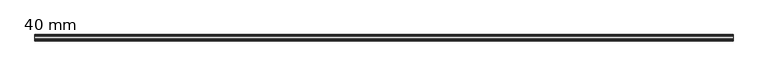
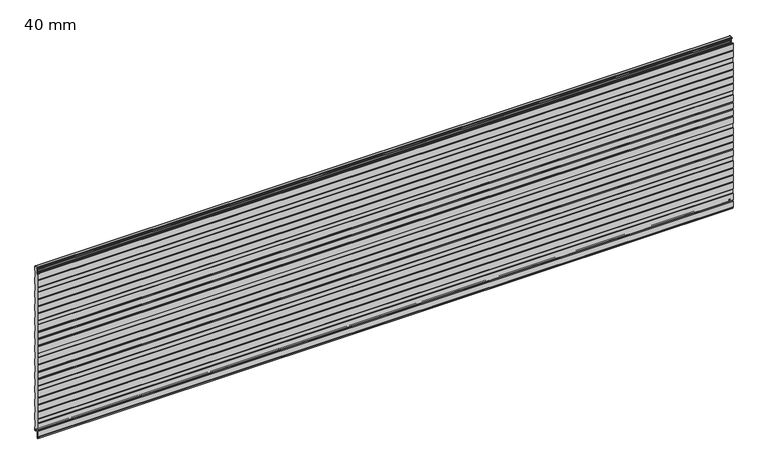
"""IFC4 building model written with IfcOpenShell, lengths in millimetres: plate geometry, HIANSA PANEL - H20.F02.002-PANELES DE FACHADA HORIZONTAL - PANEL PERFILADO - Panel de Muro Cortina : 40 mm."""

from ifc_helpers import new_model, si_unit, frame, origin, place, context, project, spatial, polyline, circle_curve, source, transform, mapped, element, save
from ifc_brep_helpers import plane_surface, cylinder_surface, revolved_surface, advanced_brep


def plate_40_mm_d91b21d4(model_context):
    return source(origin(), model_context, "Body", "AdvancedBrep", [
        advanced_brep(
        [(-2200.0, -38.8752798, 1088.9050598), (-2200.0, -37.5170803, 1089.9655099), (-2200.0, -34.8776596, 1089.9655099), (-2200.0, -34.8776596, 1080.8), (-2200.0, -33.3776596, 1079.3), (-2200.0, -29.1276596, 1079.3), (-2200.0, -27.6276596, 1080.8), (-2200.0, -27.6276596, 1082.4013031), (-2200.0, -26.9880243, 1083.6300312), (-2200.0, -20.9305067, 1087.8715506), (-2200.0, -20.0776596, 1089.5098547), (-2200.0, -20.0776596, 1098.6062275), (-2200.0, -19.3889845, 1099.7990478), (-2200.0, -19.3889845, 1100.7990478), (-2200.0, -20.0776596, 1101.9918681), (-2200.0, -20.0776596, 1111.0896684), (-2200.0, -20.9305067, 1112.7279725), (-2200.0, -26.9880243, 1116.969492), (-2200.0, -27.6276596, 1118.19822), (-2200.0, -27.6276596, 1121.5805697), (-2200.0, -26.1276596, 1123.0805697), (-2200.0, -7.7494039, 1123.0810465), (-2200.0, -6.7486887, 1122.0803313), (-2200.0, -6.7486887, 1115.9337883), (-2200.0, -4.7472517, 1113.9323514), (-2200.0, -1.4941037, 1113.9323514), (-2200.0, -0.5, 1112.9382477), (-2200.0, -0.5, 1088.0627766), (-2200.0, -1.5005169, 1085.0504228), (-2200.0, -1.5005169, 1044.8881451), (-2200.0, -0.5, 1041.8865945), (-2200.0, -0.5, 997.0519734), (-2200.0, -1.5005169, 994.0504228), (-2200.0, -1.5005169, 953.8881451), (-2200.0, -0.5, 950.8865945), (-2200.0, -0.5, 906.0519734), (-2200.0, -1.5005169, 903.0504228), (-2200.0, -1.5005169, 862.8881451), (-2200.0, -0.5, 859.8865945), (-2200.0, -0.5, 815.0519734), (-2200.0, -1.5005169, 812.0504228), (-2200.0, -1.5005169, 771.8881451), (-2200.0, -0.5, 768.8865945), (-2200.0, -0.5, 724.0519734), (-2200.0, -1.5005169, 721.0504228), (-2200.0, -1.5005169, 680.8881451), (-2200.0, -0.5, 677.8865945), (-2200.0, -0.5, 633.0519734), (-2200.0, -1.5005169, 630.0504228), (-2200.0, -1.5005169, 589.8881451), (-2200.0, -0.5, 586.8865945), (-2200.0, -0.5, 542.0519734), (-2200.0, -1.5005169, 539.0504228), (-2200.0, -1.5005169, 498.8881451), (-2200.0, -0.5, 495.8865945), (-2200.0, -0.5, 451.0519734), (-2200.0, -1.5005169, 448.0504228), (-2200.0, -1.5005169, 407.8881451), (-2200.0, -0.5, 404.8865945), (-2200.0, -0.5, 360.0519734), (-2200.0, -1.5005169, 357.0504228), (-2200.0, -1.5005169, 316.8881451), (-2200.0, -0.5, 313.8865945), (-2200.0, -0.5, 269.0519734), (-2200.0, -1.5005169, 266.0504228), (-2200.0, -1.5005169, 225.8881451), (-2200.0, -0.5, 222.8865945), (-2200.0, -0.5, 178.0519734), (-2200.0, -1.5005169, 175.0504228), (-2200.0, -1.5005169, 134.8881451), (-2200.0, -0.5, 131.8865945), (-2200.0, -0.5, 87.0519734), (-2200.0, -1.5005169, 84.0504228), (-2200.0, -1.5005169, 43.8881451), (-2200.0, -0.5, 40.8962672), (-2200.0, -0.5, 15.9680961), (-2200.0, -1.5000258, 14.9680403), (-2200.0, -4.4999967, 14.9677262), (-2200.0, -5.5000043, 15.9677319), (-2200.0, -5.5004096, 23.5818123), (-2200.0, -7.5396439, 25.6210465), (-2200.0, -26.3470846, 25.6210465), (-2200.0, -28.8839497, 23.0841814), (-2200.0, -28.8839497, -19.2), (-2200.0, -33.6276596, -19.2), (-2200.0, -33.6276596, -10.5344901), (-2200.0, -35.1276596, -9.0344901), (-2200.0, -37.5178943, -9.0344901), (-2200.0, -38.8750825, -7.9748295), (-2200.0, -39.5, -5.4751593), (-2200.0, -39.5, 33.6239573), (-2200.0, -38.4846118, 37.6855101), (-2200.0, -39.5, 41.7470629), (-2200.0, -39.5, 84.8265935), (-2200.0, -38.5, 87.8265935), (-2200.0, -38.5, 113.1008712), (-2200.0, -39.5, 116.1008712), (-2200.0, -39.5, 159.1804017), (-2200.0, -38.4846118, 163.2419545), (-2200.0, -39.5, 167.3035073), (-2200.0, -39.5, 206.4026239), (-2200.0, -38.4846118, 210.4641767), (-2200.0, -39.5, 214.5257295), (-2200.0, -39.5, 253.6248461), (-2200.0, -38.4846118, 257.6863989), (-2200.0, -39.5, 261.7479517), (-2200.0, -39.5, 304.8274823), (-2200.0, -38.5, 307.8274823), (-2200.0, -38.5, 333.10176), (-2200.0, -39.5, 336.10176), (-2200.0, -39.5, 379.1812905), (-2200.0, -38.4846118, 383.2428433), (-2200.0, -39.5, 387.3043961), (-2200.0, -39.5, 426.4035127), (-2200.0, -38.4846118, 430.4650655), (-2200.0, -39.5, 434.5266183), (-2200.0, -39.5, 473.6257349), (-2200.0, -38.4846118, 477.6872877), (-2200.0, -39.5, 481.7488405), (-2200.0, -39.5, 524.8283711), (-2200.0, -38.5, 527.8283711), (-2200.0, -38.5, 553.1026488), (-2200.0, -39.5, 556.1026488), (-2200.0, -39.5, 599.1821793), (-2200.0, -38.4846118, 603.2437321), (-2200.0, -39.5, 607.3052849), (-2200.0, -39.5, 646.4044015), (-2200.0, -38.4846118, 650.4659543), (-2200.0, -39.5, 654.5275071), (-2200.0, -39.5, 693.6266237), (-2200.0, -38.4846118, 697.6881765), (-2200.0, -39.5, 701.7497293), (-2200.0, -39.5, 744.8292599), (-2200.0, -38.5, 747.8292599), (-2200.0, -38.5, 773.1035376), (-2200.0, -39.5, 776.1035376), (-2200.0, -39.5, 819.1830681), (-2200.0, -38.4846118, 823.2446209), (-2200.0, -39.5, 827.3061737), (-2200.0, -39.5, 866.4052903), (-2200.0, -38.4846118, 870.4668431), (-2200.0, -39.5, 874.5283959), (-2200.0, -39.5, 913.6275125), (-2200.0, -38.4846118, 917.6890653), (-2200.0, -39.5, 921.7506181), (-2200.0, -39.5, 964.8301487), (-2200.0, -38.5, 967.8301487), (-2200.0, -38.5, 993.1044264), (-2200.0, -39.5, 996.1044264), (-2200.0, -39.5, 1039.1839569), (-2200.0, -38.4846118, 1043.2455097), (-2200.0, -39.5, 1047.3070625), (-2200.0, -39.5, 1086.4061791), (2200.0, -38.8752798, 1088.9050598), (2200.0, -39.5, 1086.4061791), (2200.0, -39.5, 1047.3070625), (2200.0, -38.4846118, 1043.2455097), (2200.0, -39.5, 1039.1839569), (2200.0, -39.5, 996.1044264), (2200.0, -38.5, 993.1044264), (2200.0, -38.5, 967.8301487), (2200.0, -39.5, 964.8301487), (2200.0, -39.5, 921.7506181), (2200.0, -38.4846118, 917.6890653), (2200.0, -39.5, 913.6275125), (2200.0, -39.5, 874.5283959), (2200.0, -38.4846118, 870.4668431), (2200.0, -39.5, 866.4052903), (2200.0, -39.5, 827.3061737), (2200.0, -38.4846118, 823.2446209), (2200.0, -39.5, 819.1830681), (2200.0, -39.5, 776.1035376), (2200.0, -38.5, 773.1035376), (2200.0, -38.5, 747.8292599), (2200.0, -39.5, 744.8292599), (2200.0, -39.5, 701.7497293), (2200.0, -38.4846118, 697.6881765), (2200.0, -39.5, 693.6266237), (2200.0, -39.5, 654.5275071), (2200.0, -38.4846118, 650.4659543), (2200.0, -39.5, 646.4044015), (2200.0, -39.5, 607.3052849), (2200.0, -38.4846118, 603.2437321), (2200.0, -39.5, 599.1821793), (2200.0, -39.5, 556.1026488), (2200.0, -38.5, 553.1026488), (2200.0, -38.5, 527.8283711), (2200.0, -39.5, 524.8283711), (2200.0, -39.5, 481.7488405), (2200.0, -38.4846118, 477.6872877), (2200.0, -39.5, 473.6257349), (2200.0, -39.5, 434.5266183), (2200.0, -38.4846118, 430.4650655), (2200.0, -39.5, 426.4035127), (2200.0, -39.5, 387.3043961), (2200.0, -38.4846118, 383.2428433), (2200.0, -39.5, 379.1812905), (2200.0, -39.5, 336.10176), (2200.0, -38.5, 333.10176), (2200.0, -38.5, 307.8274823), (2200.0, -39.5, 304.8274823), (2200.0, -39.5, 261.7479517), (2200.0, -38.4846118, 257.6863989), (2200.0, -39.5, 253.6248461), (2200.0, -39.5, 214.5257295), (2200.0, -38.4846118, 210.4641767), (2200.0, -39.5, 206.4026239), (2200.0, -39.5, 167.3035073), (2200.0, -38.4846118, 163.2419545), (2200.0, -39.5, 159.1804017), (2200.0, -39.5, 116.1008712), (2200.0, -38.5, 113.1008712), (2200.0, -38.5, 87.8265935), (2200.0, -39.5, 84.8265935), (2200.0, -39.5, 41.7470629), (2200.0, -38.4846118, 37.6855101), (2200.0, -39.5, 33.6239573), (2200.0, -39.5, -5.4751593), (2200.0, -38.8750825, -7.9748295), (2200.0, -37.5178943, -9.0344901), (2200.0, -35.1276596, -9.0344901), (2200.0, -33.6276596, -10.5344901), (2200.0, -33.6276596, -19.2), (2200.0, -28.8839497, -19.2), (2200.0, -28.8839497, 23.0841814), (2200.0, -26.3470846, 25.6210465), (2200.0, -7.5396439, 25.6210465), (2200.0, -5.5004096, 23.5818123), (2200.0, -5.5004096, 15.9677319), (2200.0, -4.4999967, 14.9677262), (2200.0, -1.5000258, 14.9680403), (2200.0, -0.5, 15.9680961), (2200.0, -0.5, 40.8962672), (2200.0, -1.5005169, 43.8881451), (2200.0, -1.5005169, 84.0504228), (2200.0, -0.5, 87.0519734), (2200.0, -0.5, 131.8865945), (2200.0, -1.5005169, 134.8881451), (2200.0, -1.5005169, 175.0504228), (2200.0, -0.5, 178.0519734), (2200.0, -0.5, 222.8865945), (2200.0, -1.5005169, 225.8881451), (2200.0, -1.5005169, 266.0504228), (2200.0, -0.5, 269.0519734), (2200.0, -0.5, 313.8865945), (2200.0, -1.5005169, 316.8881451), (2200.0, -1.5005169, 357.0504228), (2200.0, -0.5, 360.0519734), (2200.0, -0.5, 404.8865945), (2200.0, -1.5005169, 407.8881451), (2200.0, -1.5005169, 448.0504228), (2200.0, -0.5, 451.0519734), (2200.0, -0.5, 495.8865945), (2200.0, -1.5005169, 498.8881451), (2200.0, -1.5005169, 539.0504228), (2200.0, -0.5, 542.0519734), (2200.0, -0.5, 586.8865945), (2200.0, -1.5005169, 589.8881451), (2200.0, -1.5005169, 630.0504228), (2200.0, -0.5, 633.0519734), (2200.0, -0.5, 677.8865945), (2200.0, -1.5005169, 680.8881451), (2200.0, -1.5005169, 721.0504228), (2200.0, -0.5, 724.0519734), (2200.0, -0.5, 768.8865945), (2200.0, -1.5005169, 771.8881451), (2200.0, -1.5005169, 812.0504228), (2200.0, -0.5, 815.0519734), (2200.0, -0.5, 859.8865945), (2200.0, -1.5005169, 862.8881451), (2200.0, -1.5005169, 903.0504228), (2200.0, -0.5, 906.0519734), (2200.0, -0.5, 950.8865945), (2200.0, -1.5005169, 953.8881451), (2200.0, -1.5005169, 994.0504228), (2200.0, -0.5, 997.0519734), (2200.0, -0.5, 1041.8865945), (2200.0, -1.5005169, 1044.8881451), (2200.0, -1.5005169, 1085.0504228), (2200.0, -0.5, 1088.0627766), (2200.0, -0.5, 1112.9382477), (2200.0, -1.4941037, 1113.9323514), (2200.0, -4.7472517, 1113.9323514), (2200.0, -6.7486887, 1115.9337883), (2200.0, -6.7486887, 1122.0803313), (2200.0, -7.7494039, 1123.0810465), (2200.0, -26.1276596, 1123.0810465), (2200.0, -27.6276596, 1121.5805697), (2200.0, -27.6276596, 1118.19822), (2200.0, -26.9880243, 1116.969492), (2200.0, -20.9305067, 1112.7279725), (2200.0, -20.0776596, 1111.0896684), (2200.0, -20.0776596, 1101.9918681), (2200.0, -19.3889845, 1100.7990478), (2200.0, -19.3889845, 1099.7990478), (2200.0, -20.0776596, 1098.6062275), (2200.0, -20.0776596, 1089.5098547), (2200.0, -20.9305067, 1087.8715506), (2200.0, -26.9880243, 1083.6300312), (2200.0, -27.6276596, 1082.4013031), (2200.0, -27.6276596, 1080.8), (2200.0, -29.1276596, 1079.3), (2200.0, -33.3776596, 1079.3), (2200.0, -34.8776596, 1080.8), (2200.0, -34.8776596, 1089.9655099), (2200.0, -37.5170803, 1089.9655099)],
        [
            (0, 1, circle_curve(frame((-2200.0, -37.5170803, 1088.5655099), z_axis=(-1.0, 0.0, 0.0), x_axis=(0.0, 0.0, 1.0)), 1.4)),
            (1, 2),
            (2, 3),
            (3, 4, circle_curve(frame((-2200.0, -33.3776596, 1080.8), z_axis=(1.0, 0.0, 0.0), x_axis=(0.0, 0.0, 1.0)), 1.5)),
            (4, 5),
            (5, 6, circle_curve(frame((-2200.0, -29.1276596, 1080.8), z_axis=(1.0, 0.0, 0.0), x_axis=(0.0, 0.0, 1.0)), 1.5)),
            (6, 7),
            (7, 8, circle_curve(frame((-2200.0, -26.1276596, 1082.4013031), z_axis=(-1.0, 0.0, 0.0), x_axis=(0.0, 0.0, 1.0)), 1.5)),
            (8, 9),
            (9, 10, circle_curve(frame((-2200.0, -22.0776596, 1089.5098547), z_axis=(1.0, 0.0, 0.0), x_axis=(0.0, 0.0, 1.0)), 2.0)),
            (10, 11),
            (11, 12),
            (12, 13, circle_curve(frame((-2200.0, -20.2550099, 1100.2990478), z_axis=(1.0, 0.0, 0.0), x_axis=(0.0, 0.0, 1.0)), 1.0)),
            (13, 14),
            (14, 15),
            (15, 16, circle_curve(frame((-2200.0, -22.0776596, 1111.0896684), z_axis=(1.0, 0.0, 0.0), x_axis=(0.0, 0.0, 1.0)), 2.0)),
            (16, 17),
            (17, 18, circle_curve(frame((-2200.0, -26.1276596, 1118.19822), z_axis=(-1.0, 0.0, 0.0), x_axis=(0.0, 0.0, 1.0)), 1.5)),
            (18, 19),
            (19, 20, circle_curve(frame((-2200.0, -26.1276596, 1121.5805697), z_axis=(-1.0, 0.0, 0.0), x_axis=(0.0, 0.0, 1.0)), 1.5)),
            (20, 21),
            (21, 22, circle_curve(frame((-2200.0, -7.7494039, 1122.0803313), z_axis=(-1.0, 0.0, 0.0), x_axis=(0.0, 0.0, 1.0)), 1.0007153)),
            (22, 23),
            (23, 24, circle_curve(frame((-2200.0, -4.7472517, 1115.9337883), z_axis=(1.0, 0.0, 0.0), x_axis=(0.0, 0.0, 1.0)), 2.0014369)),
            (24, 25),
            (25, 26, circle_curve(frame((-2200.0, -1.4941037, 1112.9382477), z_axis=(-1.0, 0.0, 0.0), x_axis=(0.0, 0.0, 1.0)), 0.9941037)),
            (26, 27),
            (27, 28),
            (28, 29),
            (29, 30),
            (30, 31),
            (31, 32),
            (32, 33),
            (33, 34),
            (34, 35),
            (35, 36),
            (36, 37),
            (37, 38),
            (38, 39),
            (39, 40),
            (40, 41),
            (41, 42),
            (42, 43),
            (43, 44),
            (44, 45),
            (45, 46),
            (46, 47),
            (47, 48),
            (48, 49),
            (49, 50),
            (50, 51),
            (51, 52),
            (52, 53),
            (53, 54),
            (54, 55),
            (55, 56),
            (56, 57),
            (57, 58),
            (58, 59),
            (59, 60),
            (60, 61),
            (61, 62),
            (62, 63),
            (63, 64),
            (64, 65),
            (65, 66),
            (66, 67),
            (67, 68),
            (68, 69),
            (69, 70),
            (70, 71),
            (71, 72),
            (72, 73),
            (73, 74),
            (74, 75),
            (75, 76, circle_curve(frame((-2200.0, -1.5000558, 15.9680961), z_axis=(-1.0, 0.0, 0.0), x_axis=(0.0, 0.0, 1.0)), 1.0000558)),
            (76, 77),
            (77, 78, circle_curve(frame((-2200.0, -4.4999986, 15.9677319), z_axis=(-1.0, 0.0, 0.0), x_axis=(0.0, 0.0, 1.0)), 1.0000057)),
            (78, 79),
            (79, 80, circle_curve(frame((-2200.0, -7.5396439, 23.5818123), z_axis=(1.0, 0.0, 0.0), x_axis=(0.0, 0.0, 1.0)), 2.0392343)),
            (80, 81),
            (81, 82, circle_curve(frame((-2200.0, -26.3470846, 23.0841814), z_axis=(1.0, 0.0, 0.0), x_axis=(0.0, 0.0, 1.0)), 2.5368651)),
            (82, 83),
            (83, 84),
            (84, 85),
            (85, 86, circle_curve(frame((-2200.0, -35.1276596, -10.5344901), z_axis=(1.0, 0.0, 0.0), x_axis=(0.0, 0.0, 1.0)), 1.5)),
            (86, 87),
            (87, 88, circle_curve(frame((-2200.0, -37.5178943, -7.6355325), z_axis=(-1.0, 0.0, 0.0), x_axis=(0.0, 0.0, 1.0)), 1.3989576)),
            (88, 89),
            (89, 90),
            (90, 91),
            (91, 92),
            (92, 93),
            (93, 94),
            (94, 95),
            (95, 96),
            (96, 97),
            (97, 98),
            (98, 99),
            (99, 100),
            (100, 101),
            (101, 102),
            (102, 103),
            (103, 104),
            (104, 105),
            (105, 106),
            (106, 107),
            (107, 108),
            (108, 109),
            (109, 110),
            (110, 111),
            (111, 112),
            (112, 113),
            (113, 114),
            (114, 115),
            (115, 116),
            (116, 117),
            (117, 118),
            (118, 119),
            (119, 120),
            (120, 121),
            (121, 122),
            (122, 123),
            (123, 124),
            (124, 125),
            (125, 126),
            (126, 127),
            (127, 128),
            (128, 129),
            (129, 130),
            (130, 131),
            (131, 132),
            (132, 133),
            (133, 134),
            (134, 135),
            (135, 136),
            (136, 137),
            (137, 138),
            (138, 139),
            (139, 140),
            (140, 141),
            (141, 142),
            (142, 143),
            (143, 144),
            (144, 145),
            (145, 146),
            (146, 147),
            (147, 148),
            (148, 149),
            (149, 150),
            (150, 151),
            (151, 152),
            (152, 0),
            (153, 154),
            (154, 155),
            (155, 156),
            (156, 157),
            (157, 158),
            (158, 159),
            (159, 160),
            (160, 161),
            (161, 162),
            (162, 163),
            (163, 164),
            (164, 165),
            (165, 166),
            (166, 167),
            (167, 168),
            (168, 169),
            (169, 170),
            (170, 171),
            (171, 172),
            (172, 173),
            (173, 174),
            (174, 175),
            (175, 176),
            (176, 177),
            (177, 178),
            (178, 179),
            (179, 180),
            (180, 181),
            (181, 182),
            (182, 183),
            (183, 184),
            (184, 185),
            (185, 186),
            (186, 187),
            (187, 188),
            (188, 189),
            (189, 190),
            (190, 191),
            (191, 192),
            (192, 193),
            (193, 194),
            (194, 195),
            (195, 196),
            (196, 197),
            (197, 198),
            (198, 199),
            (199, 200),
            (200, 201),
            (201, 202),
            (202, 203),
            (203, 204),
            (204, 205),
            (205, 206),
            (206, 207),
            (207, 208),
            (208, 209),
            (209, 210),
            (210, 211),
            (211, 212),
            (212, 213),
            (213, 214),
            (214, 215),
            (215, 216),
            (216, 217),
            (217, 218),
            (218, 219, circle_curve(frame((2200.0, -37.5178943, -7.6355325), z_axis=(1.0, 0.0, 0.0), x_axis=(0.0, 0.0, 1.0)), 1.3989576)),
            (219, 220),
            (220, 221, circle_curve(frame((2200.0, -35.1276596, -10.5344901), z_axis=(-1.0, 0.0, 0.0), x_axis=(0.0, 0.0, 1.0)), 1.5)),
            (221, 222),
            (222, 223),
            (223, 224),
            (224, 225, circle_curve(frame((2200.0, -26.3470846, 23.0841814), z_axis=(-1.0, 0.0, 0.0), x_axis=(0.0, 0.0, 1.0)), 2.5368651)),
            (225, 226),
            (226, 227, circle_curve(frame((2200.0, -7.5396439, 23.5818123), z_axis=(-1.0, 0.0, 0.0), x_axis=(0.0, 0.0, 1.0)), 2.0392343)),
            (227, 228),
            (228, 229, circle_curve(frame((2200.0, -4.4999986, 15.9677319), z_axis=(1.0, 0.0, 0.0), x_axis=(0.0, 0.0, 1.0)), 1.0000057)),
            (229, 230),
            (230, 231, circle_curve(frame((2200.0, -1.5000558, 15.9680961), z_axis=(1.0, 0.0, 0.0), x_axis=(0.0, 0.0, 1.0)), 1.0000558)),
            (231, 232),
            (232, 233),
            (233, 234),
            (234, 235),
            (235, 236),
            (236, 237),
            (237, 238),
            (238, 239),
            (239, 240),
            (240, 241),
            (241, 242),
            (242, 243),
            (243, 244),
            (244, 245),
            (245, 246),
            (246, 247),
            (247, 248),
            (248, 249),
            (249, 250),
            (250, 251),
            (251, 252),
            (252, 253),
            (253, 254),
            (254, 255),
            (255, 256),
            (256, 257),
            (257, 258),
            (258, 259),
            (259, 260),
            (260, 261),
            (261, 262),
            (262, 263),
            (263, 264),
            (264, 265),
            (265, 266),
            (266, 267),
            (267, 268),
            (268, 269),
            (269, 270),
            (270, 271),
            (271, 272),
            (272, 273),
            (273, 274),
            (274, 275),
            (275, 276),
            (276, 277),
            (277, 278),
            (278, 279),
            (279, 280),
            (280, 281, circle_curve(frame((2200.0, -1.4941037, 1112.9382477), z_axis=(1.0, 0.0, 0.0), x_axis=(0.0, 0.0, 1.0)), 0.9941037)),
            (281, 282),
            (282, 283, circle_curve(frame((2200.0, -4.7472517, 1115.9337883), z_axis=(-1.0, 0.0, 0.0), x_axis=(0.0, 0.0, 1.0)), 2.0014369)),
            (283, 284),
            (284, 285, circle_curve(frame((2200.0, -7.7494039, 1122.0803313), z_axis=(1.0, 0.0, 0.0), x_axis=(0.0, 0.0, 1.0)), 1.0007153)),
            (285, 286),
            (286, 287, circle_curve(frame((2200.0, -26.1276596, 1121.5805697), z_axis=(1.0, 0.0, 0.0), x_axis=(0.0, 0.0, 1.0)), 1.5)),
            (287, 288),
            (288, 289, circle_curve(frame((2200.0, -26.1276596, 1118.19822), z_axis=(1.0, 0.0, 0.0), x_axis=(0.0, 0.0, 1.0)), 1.5)),
            (289, 290),
            (290, 291, circle_curve(frame((2200.0, -22.0776596, 1111.0896684), z_axis=(-1.0, 0.0, 0.0), x_axis=(0.0, 0.0, 1.0)), 2.0)),
            (291, 292),
            (292, 293),
            (293, 294, circle_curve(frame((2200.0, -20.2550099, 1100.2990478), z_axis=(-1.0, 0.0, 0.0), x_axis=(0.0, 0.0, 1.0)), 1.0)),
            (294, 295),
            (295, 296),
            (296, 297, circle_curve(frame((2200.0, -22.0776596, 1089.5098547), z_axis=(-1.0, 0.0, 0.0), x_axis=(0.0, 0.0, 1.0)), 2.0)),
            (297, 298),
            (298, 299, circle_curve(frame((2200.0, -26.1276596, 1082.4013031), z_axis=(1.0, 0.0, 0.0), x_axis=(0.0, 0.0, 1.0)), 1.5)),
            (299, 300),
            (300, 301, circle_curve(frame((2200.0, -29.1276596, 1080.8), z_axis=(-1.0, 0.0, 0.0), x_axis=(0.0, 0.0, 1.0)), 1.5)),
            (301, 302),
            (302, 303, circle_curve(frame((2200.0, -33.3776596, 1080.8), z_axis=(-1.0, 0.0, 0.0), x_axis=(0.0, 0.0, 1.0)), 1.5)),
            (303, 304),
            (304, 305),
            (305, 153, circle_curve(frame((2200.0, -37.5170803, 1088.5655099), z_axis=(1.0, 0.0, 0.0), x_axis=(0.0, 0.0, 1.0)), 1.4)),
            (147, 159),
            (158, 148),
            (146, 160),
            (145, 161),
            (144, 162),
            (143, 163),
            (142, 164),
            (141, 165),
            (140, 166),
            (139, 167),
            (138, 168),
            (137, 169),
            (136, 170),
            (135, 171),
            (134, 172),
            (133, 173),
            (132, 174),
            (131, 175),
            (130, 176),
            (129, 177),
            (128, 178),
            (127, 179),
            (126, 180),
            (125, 181),
            (124, 182),
            (123, 183),
            (122, 184),
            (121, 185),
            (120, 186),
            (119, 187),
            (118, 188),
            (117, 189),
            (116, 190),
            (115, 191),
            (114, 192),
            (113, 193),
            (112, 194),
            (111, 195),
            (110, 196),
            (109, 197),
            (108, 198),
            (107, 199),
            (106, 200),
            (105, 201),
            (104, 202),
            (103, 203),
            (102, 204),
            (101, 205),
            (100, 206),
            (99, 207),
            (98, 208),
            (97, 209),
            (96, 210),
            (95, 211),
            (94, 212),
            (93, 213),
            (92, 214),
            (91, 215),
            (90, 216),
            (89, 217),
            (88, 218),
            (87, 219),
            (86, 220),
            (85, 221),
            (84, 222),
            (83, 223),
            (82, 224),
            (81, 225),
            (80, 226),
            (79, 227),
            (78, 228),
            (74, 232),
            (231, 75),
            (73, 233),
            (72, 234),
            (71, 235),
            (70, 236),
            (69, 237),
            (68, 238),
            (67, 239),
            (66, 240),
            (65, 241),
            (64, 242),
            (63, 243),
            (62, 244),
            (61, 245),
            (60, 246),
            (59, 247),
            (58, 248),
            (57, 249),
            (56, 250),
            (55, 251),
            (54, 252),
            (53, 253),
            (52, 254),
            (51, 255),
            (50, 256),
            (49, 257),
            (48, 258),
            (47, 259),
            (46, 260),
            (45, 261),
            (44, 262),
            (43, 263),
            (42, 264),
            (41, 265),
            (40, 266),
            (39, 267),
            (38, 268),
            (37, 269),
            (36, 270),
            (35, 271),
            (34, 272),
            (33, 273),
            (32, 274),
            (31, 275),
            (30, 276),
            (152, 154),
            (153, 0),
            (151, 155),
            (150, 156),
            (149, 157),
            (29, 277),
            (28, 278),
            (27, 279),
            (26, 280),
            (25, 281),
            (24, 282),
            (23, 283),
            (22, 284),
            (21, 285),
            (20, 286),
            (19, 287),
            (18, 288),
            (17, 289),
            (16, 290),
            (15, 291),
            (9, 297),
            (296, 10),
            (8, 298),
            (7, 299),
            (6, 300),
            (5, 301),
            (4, 302),
            (3, 303),
            (2, 304),
            (1, 305),
            (14, 292),
            (13, 293),
            (12, 294),
            (11, 295),
            (77, 229),
            (76, 230),
        ],
        [
            plane_surface(frame((-2200.0, 0.0, 0.0), z_axis=(-1.0, 0.0, 0.0), x_axis=(0.0, 0.0, 1.0))),
            plane_surface(frame((2200.0, 0.0, 0.0), z_axis=(1.0, 0.0, 0.0), x_axis=(0.0, 0.0, 1.0))),
            plane_surface(frame((-2200.0, -39.5, 996.1044264), z_axis=(0.0, -0.9486832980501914, -0.31622776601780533), x_axis=(1.0, 0.0, 0.0))),
            plane_surface(frame((-2200.0, -38.5, 993.1044264), z_axis=(0.0, -1.0, 0.0), x_axis=(1.0, 0.0, 0.0))),
            plane_surface(frame((-2200.0, -38.5, 967.8301487), z_axis=(0.0, -0.948683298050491, 0.3162277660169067), x_axis=(1.0, 0.0, 0.0))),
            plane_surface(frame((-2200.0, -39.5, 964.8301487), z_axis=(0.0, -1.0, 0.0), x_axis=(1.0, 0.0, 0.0))),
            plane_surface(frame((-2200.0, -39.5, 921.7506181), z_axis=(0.0, -0.9701425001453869, -0.24253562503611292), x_axis=(1.0, 0.0, 0.0))),
            plane_surface(frame((-2200.0, -38.4846118, 917.6890653), z_axis=(0.0, -0.9701425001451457, 0.24253562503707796), x_axis=(1.0, 0.0, 0.0))),
            plane_surface(frame((-2200.0, -39.5, 913.6275125), z_axis=(0.0, -1.0, 0.0), x_axis=(1.0, 0.0, 0.0))),
            plane_surface(frame((-2200.0, -39.5, 874.5283959), z_axis=(0.0, -0.9701425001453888, -0.2425356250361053), x_axis=(1.0, 0.0, 0.0))),
            plane_surface(frame((-2200.0, -38.4846118, 870.4668431), z_axis=(0.0, -0.9701425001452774, 0.24253562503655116), x_axis=(1.0, 0.0, 0.0))),
            plane_surface(frame((-2200.0, -39.5, 866.4052903), z_axis=(0.0, -1.0, 0.0), x_axis=(1.0, 0.0, 0.0))),
            plane_surface(frame((-2200.0, -39.5, 827.3061737), z_axis=(0.0, -0.9701425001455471, -0.242535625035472), x_axis=(1.0, 0.0, 0.0))),
            plane_surface(frame((-2200.0, -38.4846118, 823.2446209), z_axis=(0.0, -0.9701425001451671, 0.2425356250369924), x_axis=(1.0, 0.0, 0.0))),
            plane_surface(frame((-2200.0, -39.5, 819.1830681), z_axis=(0.0, -1.0, 0.0), x_axis=(1.0, 0.0, 0.0))),
            plane_surface(frame((-2200.0, -39.5, 776.1035376), z_axis=(0.0, -0.9486832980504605, -0.3162277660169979), x_axis=(1.0, 0.0, 0.0))),
            plane_surface(frame((-2200.0, -38.5, 773.1035376), z_axis=(0.0, -1.0, 0.0), x_axis=(1.0, 0.0, 0.0))),
            plane_surface(frame((-2200.0, -38.5, 747.8292599), z_axis=(0.0, -0.9486832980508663, 0.3162277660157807), x_axis=(1.0, 0.0, 0.0))),
            plane_surface(frame((-2200.0, -39.5, 744.8292599), z_axis=(0.0, -1.0, 0.0), x_axis=(1.0, 0.0, 0.0))),
            plane_surface(frame((-2200.0, -39.5, 701.7497293), z_axis=(0.0, -0.9701425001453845, -0.24253562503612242), x_axis=(1.0, 0.0, 0.0))),
            plane_surface(frame((-2200.0, -38.4846118, 697.6881765), z_axis=(0.0, -0.9701425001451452, 0.2425356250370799), x_axis=(1.0, 0.0, 0.0))),
            plane_surface(frame((-2200.0, -39.5, 693.6266237), z_axis=(0.0, -1.0, 0.0), x_axis=(1.0, 0.0, 0.0))),
            plane_surface(frame((-2200.0, -39.5, 654.5275071), z_axis=(0.0, -0.9701425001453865, -0.2425356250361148), x_axis=(1.0, 0.0, 0.0))),
            plane_surface(frame((-2200.0, -38.4846118, 650.4659543), z_axis=(0.0, -0.9701425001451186, 0.24253562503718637), x_axis=(1.0, 0.0, 0.0))),
            plane_surface(frame((-2200.0, -39.5, 646.4044015), z_axis=(0.0, -1.0, 0.0), x_axis=(1.0, 0.0, 0.0))),
            plane_surface(frame((-2200.0, -39.5, 607.3052849), z_axis=(0.0, -0.9701425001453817, -0.24253562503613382), x_axis=(1.0, 0.0, 0.0))),
            plane_surface(frame((-2200.0, -38.4846118, 603.2437321), z_axis=(0.0, -0.9701425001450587, 0.242535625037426), x_axis=(1.0, 0.0, 0.0))),
            plane_surface(frame((-2200.0, -39.5, 599.1821793), z_axis=(0.0, -1.0, 0.0), x_axis=(1.0, 0.0, 0.0))),
            plane_surface(frame((-2200.0, -39.5, 556.1026488), z_axis=(0.0, -0.948683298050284, -0.3162277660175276), x_axis=(1.0, 0.0, 0.0))),
            plane_surface(frame((-2200.0, -38.5, 553.1026488), z_axis=(0.0, -1.0, 0.0), x_axis=(1.0, 0.0, 0.0))),
            plane_surface(frame((-2200.0, -38.5, 527.8283711), z_axis=(0.0, -0.9486832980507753, 0.31622776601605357), x_axis=(1.0, 0.0, 0.0))),
            plane_surface(frame((-2200.0, -39.5, 524.8283711), z_axis=(0.0, -1.0, 0.0), x_axis=(1.0, 0.0, 0.0))),
            plane_surface(frame((-2200.0, -39.5, 481.7488405), z_axis=(0.0, -0.9701425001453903, -0.2425356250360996), x_axis=(1.0, 0.0, 0.0))),
            plane_surface(frame((-2200.0, -38.4846118, 477.6872877), z_axis=(0.0, -0.9701425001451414, 0.24253562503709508), x_axis=(1.0, 0.0, 0.0))),
            plane_surface(frame((-2200.0, -39.5, 473.6257349), z_axis=(0.0, -1.0, 0.0), x_axis=(1.0, 0.0, 0.0))),
            plane_surface(frame((-2200.0, -39.5, 434.5266183), z_axis=(0.0, -0.9701425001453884, -0.2425356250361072), x_axis=(1.0, 0.0, 0.0))),
            plane_surface(frame((-2200.0, -38.4846118, 430.4650655), z_axis=(0.0, -0.9701425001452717, 0.24253562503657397), x_axis=(1.0, 0.0, 0.0))),
            plane_surface(frame((-2200.0, -39.5, 426.4035127), z_axis=(0.0, -1.0, 0.0), x_axis=(1.0, 0.0, 0.0))),
            plane_surface(frame((-2200.0, -39.5, 387.3043961), z_axis=(0.0, -0.9701425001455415, -0.2425356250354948), x_axis=(1.0, 0.0, 0.0))),
            plane_surface(frame((-2200.0, -38.4846118, 383.2428433), z_axis=(0.0, -0.9701425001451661, 0.2425356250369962), x_axis=(1.0, 0.0, 0.0))),
            plane_surface(frame((-2200.0, -39.5, 379.1812905), z_axis=(0.0, -1.0, 0.0), x_axis=(1.0, 0.0, 0.0))),
            plane_surface(frame((-2200.0, -39.5, 336.10176), z_axis=(0.0, -0.9486832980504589, -0.3162277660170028), x_axis=(1.0, 0.0, 0.0))),
            plane_surface(frame((-2200.0, -38.5, 333.10176), z_axis=(0.0, -1.0, 0.0), x_axis=(1.0, 0.0, 0.0))),
            plane_surface(frame((-2200.0, -38.5, 307.8274823), z_axis=(0.0, -0.9486832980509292, 0.3162277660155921), x_axis=(1.0, 0.0, 0.0))),
            plane_surface(frame((-2200.0, -39.5, 304.8274823), z_axis=(0.0, -1.0, 0.0), x_axis=(1.0, 0.0, 0.0))),
            plane_surface(frame((-2200.0, -39.5, 261.7479517), z_axis=(0.0, -0.9701425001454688, -0.2425356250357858), x_axis=(1.0, 0.0, 0.0))),
            plane_surface(frame((-2200.0, -38.4846118, 257.6863989), z_axis=(0.0, -0.9701425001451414, 0.24253562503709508), x_axis=(1.0, 0.0, 0.0))),
            plane_surface(frame((-2200.0, -39.5, 253.6248461), z_axis=(0.0, -1.0, 0.0), x_axis=(1.0, 0.0, 0.0))),
            plane_surface(frame((-2200.0, -39.5, 214.5257295), z_axis=(0.0, -0.9701425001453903, -0.2425356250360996), x_axis=(1.0, 0.0, 0.0))),
            plane_surface(frame((-2200.0, -38.4846118, 210.4641767), z_axis=(0.0, -0.9701425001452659, 0.24253562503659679), x_axis=(1.0, 0.0, 0.0))),
            plane_surface(frame((-2200.0, -39.5, 206.4026239), z_axis=(0.0, -1.0, 0.0), x_axis=(1.0, 0.0, 0.0))),
            plane_surface(frame((-2200.0, -39.5, 167.3035073), z_axis=(0.0, -0.9701425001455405, -0.2425356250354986), x_axis=(1.0, 0.0, 0.0))),
            plane_surface(frame((-2200.0, -38.4846118, 163.2419545), z_axis=(0.0, -0.9701425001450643, 0.24253562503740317), x_axis=(1.0, 0.0, 0.0))),
            plane_surface(frame((-2200.0, -39.5, 159.1804017), z_axis=(0.0, -1.0, 0.0), x_axis=(1.0, 0.0, 0.0))),
            plane_surface(frame((-2200.0, -39.5, 116.1008712), z_axis=(0.0, -0.948683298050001, -0.31622776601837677), x_axis=(1.0, 0.0, 0.0))),
            plane_surface(frame((-2200.0, -38.5, 113.1008712), z_axis=(0.0, -1.0, 0.0), x_axis=(1.0, 0.0, 0.0))),
            plane_surface(frame((-2200.0, -38.5, 87.8265935), z_axis=(0.0, -0.9486832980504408, 0.31622776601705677), x_axis=(1.0, 0.0, 0.0))),
            plane_surface(frame((-2200.0, -39.5, 84.8265935), z_axis=(0.0, -1.0, 0.0), x_axis=(1.0, 0.0, 0.0))),
            plane_surface(frame((-2200.0, -39.5, 41.7470629), z_axis=(0.0, -0.9701425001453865, -0.2425356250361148), x_axis=(1.0, 0.0, 0.0))),
            plane_surface(frame((-2200.0, -38.4846118, 37.6855101), z_axis=(0.0, -0.9701425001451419, 0.2425356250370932), x_axis=(1.0, 0.0, 0.0))),
            plane_surface(frame((-2200.0, -39.5, 33.6239573), z_axis=(0.0, -1.0, 0.0), x_axis=(1.0, 0.0, 0.0))),
            plane_surface(frame((-2200.0, -39.5, -5.4751593), z_axis=(0.0, -0.9701425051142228, -0.24253560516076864), x_axis=(1.0, 0.0, 0.0))),
            cylinder_surface(frame((-2200.0, -37.5178943, -7.6355325), z_axis=(-1.0, 0.0, 0.0), x_axis=(0.0, 0.0, 1.0)), 1.3989576),
            plane_surface(frame((-2200.0, -37.5178943, -9.0344901), z_axis=(0.0, 0.0, -1.0), x_axis=(1.0, 0.0, 0.0))),
            revolved_surface(polyline([(2200.0, -35.1276596, -9.0344901), (-2200.0, -35.1276596, -9.0344901)]), (-2200.0, -35.1276596, -10.5344901), (1.0, 0.0, 0.0)),
            plane_surface(frame((-2200.0, -33.6276596, -10.5344901), z_axis=(0.0, -1.0, 0.0), x_axis=(1.0, 0.0, 0.0))),
            plane_surface(frame((-2200.0, -33.6276596, -19.2), z_axis=(0.0, 0.0, -1.0), x_axis=(1.0, 0.0, 0.0))),
            plane_surface(frame((-2200.0, -28.8839497, -19.2), z_axis=(0.0, 1.0, 0.0), x_axis=(1.0, 0.0, 0.0))),
            revolved_surface(polyline([(2200.0, -26.3470846, 25.6210465), (-2200.0, -26.3470846, 25.6210465)]), (-2200.0, -26.3470846, 23.0841814), (1.0, 0.0, 0.0)),
            plane_surface(frame((-2200.0, -26.3470846, 25.6210465), z_axis=(0.0, 0.0, -1.0), x_axis=(1.0, 0.0, 0.0))),
            revolved_surface(polyline([(2200.0, -7.5396439, 25.6210466), (-2200.0, -7.5396439, 25.6210466)]), (-2200.0, -7.5396439, 23.5818123), (1.0, 0.0, 0.0)),
            plane_surface(frame((-2200.0, -5.5004096, 23.5818123), z_axis=(0.0, -1.0, 0.0), x_axis=(1.0, 0.0, 0.0))),
            plane_surface(frame((-2200.0, -0.5, 15.9680961), z_axis=(0.0, 1.0, 0.0), x_axis=(1.0, 0.0, 0.0))),
            plane_surface(frame((-2200.0, -0.5, 40.8962672), z_axis=(0.0, 0.9483762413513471, 0.31714744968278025), x_axis=(1.0, 0.0, 0.0))),
            plane_surface(frame((-2200.0, -1.5005169, 43.8881451), z_axis=(0.0, 1.0, 0.0), x_axis=(1.0, 0.0, 0.0))),
            plane_surface(frame((-2200.0, -1.5005169, 84.0504228), z_axis=(0.0, 0.9486832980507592, -0.3162277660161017), x_axis=(1.0, 0.0, 0.0))),
            plane_surface(frame((-2200.0, -0.5, 87.0519734), z_axis=(0.0, 1.0, 0.0), x_axis=(1.0, 0.0, 0.0))),
            plane_surface(frame((-2200.0, -0.5, 131.8865945), z_axis=(0.0, 0.948683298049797, 0.3162277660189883), x_axis=(1.0, 0.0, 0.0))),
            plane_surface(frame((-2200.0, -1.5005169, 134.8881451), z_axis=(0.0, 1.0, 0.0), x_axis=(1.0, 0.0, 0.0))),
            plane_surface(frame((-2200.0, -1.5005169, 175.0504228), z_axis=(0.0, 0.9486832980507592, -0.3162277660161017), x_axis=(1.0, 0.0, 0.0))),
            plane_surface(frame((-2200.0, -0.5, 178.0519734), z_axis=(0.0, 1.0, 0.0), x_axis=(1.0, 0.0, 0.0))),
            plane_surface(frame((-2200.0, -0.5, 222.8865945), z_axis=(0.0, 0.948683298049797, 0.3162277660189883), x_axis=(1.0, 0.0, 0.0))),
            plane_surface(frame((-2200.0, -1.5005169, 225.8881451), z_axis=(0.0, 1.0, 0.0), x_axis=(1.0, 0.0, 0.0))),
            plane_surface(frame((-2200.0, -1.5005169, 266.0504228), z_axis=(0.0, 0.9486832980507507, -0.3162277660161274), x_axis=(1.0, 0.0, 0.0))),
            plane_surface(frame((-2200.0, -0.5, 269.0519734), z_axis=(0.0, 1.0, 0.0), x_axis=(1.0, 0.0, 0.0))),
            plane_surface(frame((-2200.0, -0.5, 313.8865945), z_axis=(0.0, 0.9486832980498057, 0.31622776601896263), x_axis=(1.0, 0.0, 0.0))),
            plane_surface(frame((-2200.0, -1.5005169, 316.8881451), z_axis=(0.0, 1.0, 0.0), x_axis=(1.0, 0.0, 0.0))),
            plane_surface(frame((-2200.0, -1.5005169, 357.0504228), z_axis=(0.0, 0.9486832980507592, -0.3162277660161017), x_axis=(1.0, 0.0, 0.0))),
            plane_surface(frame((-2200.0, -0.5, 360.0519734), z_axis=(0.0, 1.0, 0.0), x_axis=(1.0, 0.0, 0.0))),
            plane_surface(frame((-2200.0, -0.5, 404.8865945), z_axis=(0.0, 0.948683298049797, 0.3162277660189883), x_axis=(1.0, 0.0, 0.0))),
            plane_surface(frame((-2200.0, -1.5005169, 407.8881451), z_axis=(0.0, 1.0, 0.0), x_axis=(1.0, 0.0, 0.0))),
            plane_surface(frame((-2200.0, -1.5005169, 448.0504228), z_axis=(0.0, 0.9486832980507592, -0.3162277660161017), x_axis=(1.0, 0.0, 0.0))),
            plane_surface(frame((-2200.0, -0.5, 451.0519734), z_axis=(0.0, 1.0, 0.0), x_axis=(1.0, 0.0, 0.0))),
            plane_surface(frame((-2200.0, -0.5, 495.8865945), z_axis=(0.0, 0.9486832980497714, 0.3162277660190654), x_axis=(1.0, 0.0, 0.0))),
            plane_surface(frame((-2200.0, -1.5005169, 498.8881451), z_axis=(0.0, 1.0, 0.0), x_axis=(1.0, 0.0, 0.0))),
            plane_surface(frame((-2200.0, -1.5005169, 539.0504228), z_axis=(0.0, 0.9486832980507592, -0.3162277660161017), x_axis=(1.0, 0.0, 0.0))),
            plane_surface(frame((-2200.0, -0.5, 542.0519734), z_axis=(0.0, 1.0, 0.0), x_axis=(1.0, 0.0, 0.0))),
            plane_surface(frame((-2200.0, -0.5, 586.8865945), z_axis=(0.0, 0.9486832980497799, 0.3162277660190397), x_axis=(1.0, 0.0, 0.0))),
            plane_surface(frame((-2200.0, -1.5005169, 589.8881451), z_axis=(0.0, 1.0, 0.0), x_axis=(1.0, 0.0, 0.0))),
            plane_surface(frame((-2200.0, -1.5005169, 630.0504228), z_axis=(0.0, 0.9486832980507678, -0.316227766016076), x_axis=(1.0, 0.0, 0.0))),
            plane_surface(frame((-2200.0, -0.5, 633.0519734), z_axis=(0.0, 1.0, 0.0), x_axis=(1.0, 0.0, 0.0))),
            plane_surface(frame((-2200.0, -0.5, 677.8865945), z_axis=(0.0, 0.9486832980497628, 0.3162277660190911), x_axis=(1.0, 0.0, 0.0))),
            plane_surface(frame((-2200.0, -1.5005169, 680.8881451), z_axis=(0.0, 1.0, 0.0), x_axis=(1.0, 0.0, 0.0))),
            plane_surface(frame((-2200.0, -1.5005169, 721.0504228), z_axis=(0.0, 0.9486832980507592, -0.3162277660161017), x_axis=(1.0, 0.0, 0.0))),
            plane_surface(frame((-2200.0, -0.5, 724.0519734), z_axis=(0.0, 1.0, 0.0), x_axis=(1.0, 0.0, 0.0))),
            plane_surface(frame((-2200.0, -0.5, 768.8865945), z_axis=(0.0, 0.9486832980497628, 0.3162277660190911), x_axis=(1.0, 0.0, 0.0))),
            plane_surface(frame((-2200.0, -1.5005169, 771.8881451), z_axis=(0.0, 1.0, 0.0), x_axis=(1.0, 0.0, 0.0))),
            plane_surface(frame((-2200.0, -1.5005169, 812.0504228), z_axis=(0.0, 0.9486832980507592, -0.3162277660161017), x_axis=(1.0, 0.0, 0.0))),
            plane_surface(frame((-2200.0, -0.5, 815.0519734), z_axis=(0.0, 1.0, 0.0), x_axis=(1.0, 0.0, 0.0))),
            plane_surface(frame((-2200.0, -0.5, 859.8865945), z_axis=(0.0, 0.9486832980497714, 0.3162277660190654), x_axis=(1.0, 0.0, 0.0))),
            plane_surface(frame((-2200.0, -1.5005169, 862.8881451), z_axis=(0.0, 1.0, 0.0), x_axis=(1.0, 0.0, 0.0))),
            plane_surface(frame((-2200.0, -1.5005169, 903.0504228), z_axis=(0.0, 0.9486832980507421, -0.3162277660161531), x_axis=(1.0, 0.0, 0.0))),
            plane_surface(frame((-2200.0, -0.5, 906.0519734), z_axis=(0.0, 1.0, 0.0), x_axis=(1.0, 0.0, 0.0))),
            plane_surface(frame((-2200.0, -0.5, 950.8865945), z_axis=(0.0, 0.9486832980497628, 0.3162277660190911), x_axis=(1.0, 0.0, 0.0))),
            plane_surface(frame((-2200.0, -1.5005169, 953.8881451), z_axis=(0.0, 1.0, 0.0), x_axis=(1.0, 0.0, 0.0))),
            plane_surface(frame((-2200.0, -1.5005169, 994.0504228), z_axis=(0.0, 0.9486832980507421, -0.3162277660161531), x_axis=(1.0, 0.0, 0.0))),
            plane_surface(frame((-2200.0, -0.5, 997.0519734), z_axis=(0.0, 1.0, 0.0), x_axis=(1.0, 0.0, 0.0))),
            plane_surface(frame((-2200.0, -38.8752798, 1088.9050598), z_axis=(0.0, -0.9701425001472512, 0.24253562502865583), x_axis=(1.0, 0.0, 0.0))),
            plane_surface(frame((-2200.0, -39.5, 1086.4061791), z_axis=(0.0, -1.0, 0.0), x_axis=(1.0, 0.0, 0.0))),
            plane_surface(frame((-2200.0, -39.5, 1047.3070625), z_axis=(0.0, -0.970142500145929, -0.24253562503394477), x_axis=(1.0, 0.0, 0.0))),
            plane_surface(frame((-2200.0, -38.4846118, 1043.2455097), z_axis=(0.0, -0.9701425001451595, 0.2425356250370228), x_axis=(1.0, 0.0, 0.0))),
            plane_surface(frame((-2200.0, -39.5, 1039.1839569), z_axis=(0.0, -1.0, 0.0), x_axis=(1.0, 0.0, 0.0))),
            plane_surface(frame((-2200.0, -0.5, 1041.8865945), z_axis=(0.0, 0.9486832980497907, 0.3162277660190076), x_axis=(1.0, 0.0, 0.0))),
            plane_surface(frame((-2200.0, -1.5005169, 1044.8881451), z_axis=(0.0, 1.0, 0.0), x_axis=(1.0, 0.0, 0.0))),
            plane_surface(frame((-2200.0, -1.5005169, 1085.0504228), z_axis=(0.0, 0.9490230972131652, -0.31520653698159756), x_axis=(1.0, 0.0, 0.0))),
            plane_surface(frame((-2200.0, -0.5, 1088.0627766), z_axis=(0.0, 1.0, 0.0), x_axis=(1.0, 0.0, 0.0))),
            cylinder_surface(frame((-2200.0, -1.4941037, 1112.9382477), z_axis=(-1.0, 0.0, 0.0), x_axis=(0.0, 0.0, 1.0)), 0.9941037),
            plane_surface(frame((-2200.0, -1.4941037, 1113.9323514), z_axis=(0.0, 0.0, 1.0), x_axis=(1.0, 0.0, 0.0))),
            revolved_surface(polyline([(2200.0, -4.7472517, 1117.9352252), (-2200.0, -4.7472517, 1117.9352252)]), (-2200.0, -4.7472517, 1115.9337883), (1.0, 0.0, 0.0)),
            plane_surface(frame((-2200.0, -6.7486887, 1115.9337883), z_axis=(0.0, 1.0, 0.0), x_axis=(1.0, 0.0, 0.0))),
            cylinder_surface(frame((-2200.0, -7.7494039, 1122.0803313), z_axis=(-1.0, 0.0, 0.0), x_axis=(0.0, 0.0, 1.0)), 1.0007153),
            plane_surface(frame((-2200.0, -7.7494039, 1123.0810465), z_axis=(0.0, 0.0, 1.0), x_axis=(1.0, 0.0, 0.0))),
            cylinder_surface(frame((-2200.0, -26.1276596, 1121.5805697), z_axis=(-1.0, 0.0, 0.0), x_axis=(0.0, 0.0, 1.0)), 1.5),
            plane_surface(frame((-2200.0, -27.6276596, 1121.5805697), z_axis=(0.0, -1.0, 0.0), x_axis=(1.0, 0.0, 0.0))),
            cylinder_surface(frame((-2200.0, -26.1276596, 1118.19822), z_axis=(-1.0, 0.0, 0.0), x_axis=(0.0, 0.0, 1.0)), 1.5),
            plane_surface(frame((-2200.0, -26.9880243, 1116.969492), z_axis=(0.0, -0.5735764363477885, -0.8191520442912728), x_axis=(1.0, 0.0, 0.0))),
            revolved_surface(polyline([(2200.0, -22.0776596, 1113.0896684), (-2200.0, -22.0776596, 1113.0896684)]), (-2200.0, -22.0776596, 1111.0896684), (1.0, 0.0, 0.0)),
            revolved_surface(polyline([(2200.0, -22.0776596, 1091.5098547), (-2200.0, -22.0776596, 1091.5098547)]), (-2200.0, -22.0776596, 1089.5098547), (1.0, 0.0, 0.0)),
            plane_surface(frame((-2200.0, -20.9305067, 1087.8715506), z_axis=(0.0, -0.5735764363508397, 0.8191520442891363), x_axis=(1.0, 0.0, 0.0))),
            cylinder_surface(frame((-2200.0, -26.1276596, 1082.4013031), z_axis=(-1.0, 0.0, 0.0), x_axis=(0.0, 0.0, 1.0)), 1.5),
            plane_surface(frame((-2200.0, -27.6276596, 1082.4013031), z_axis=(0.0, -1.0, 0.0), x_axis=(1.0, 0.0, 0.0))),
            revolved_surface(polyline([(2200.0, -29.1276596, 1082.3), (-2200.0, -29.1276596, 1082.3)]), (-2200.0, -29.1276596, 1080.8), (1.0, 0.0, 0.0)),
            plane_surface(frame((-2200.0, -29.1276596, 1079.3), z_axis=(0.0, 0.0, 1.0), x_axis=(1.0, 0.0, 0.0))),
            revolved_surface(polyline([(2200.0, -33.3776596, 1082.3), (-2200.0, -33.3776596, 1082.3)]), (-2200.0, -33.3776596, 1080.8), (1.0, 0.0, 0.0)),
            plane_surface(frame((-2200.0, -34.8776596, 1080.8), z_axis=(0.0, 1.0, 0.0), x_axis=(1.0, 0.0, 0.0))),
            plane_surface(frame((-2200.0, -34.8776596, 1089.9655099), z_axis=(0.0, 0.0, 1.0), x_axis=(1.0, 0.0, 0.0))),
            cylinder_surface(frame((-2200.0, -37.5170803, 1088.5655099), z_axis=(-1.0, 0.0, 0.0), x_axis=(0.0, 0.0, 1.0)), 1.4),
            plane_surface(frame((-2200.0, -20.0776596, 1111.0896684), z_axis=(0.0, -1.0, 0.0), x_axis=(1.0, 0.0, 0.0))),
            plane_surface(frame((-2200.0, -20.0776596, 1101.9918681), z_axis=(0.0, -0.8660254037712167, -0.5000000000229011), x_axis=(1.0, 0.0, 0.0))),
            revolved_surface(polyline([(2200.0, -20.2550099, 1101.2990478), (-2200.0, -20.2550099, 1101.2990478)]), (-2200.0, -20.2550099, 1100.2990478), (1.0, 0.0, 0.0)),
            plane_surface(frame((-2200.0, -19.3889845, 1099.7990478), z_axis=(0.0, -0.8660254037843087, 0.5000000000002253), x_axis=(1.0, 0.0, 0.0))),
            plane_surface(frame((-2200.0, -20.0776596, 1098.6062275), z_axis=(0.0, -1.0, 0.0), x_axis=(1.0, 0.0, 0.0))),
            cylinder_surface(frame((-2200.0, -4.4999986, 15.9677319), z_axis=(-1.0, 0.0, 0.0), x_axis=(0.0, 0.0, 1.0)), 1.0000057),
            plane_surface(frame((-2200.0, -4.4999967, 14.9677262), z_axis=(0.0, 0.00010468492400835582, -0.9999999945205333), x_axis=(1.0, 0.0, 0.0))),
            cylinder_surface(frame((-2200.0, -1.5000558, 15.9680961), z_axis=(-1.0, 0.0, 0.0), x_axis=(0.0, 0.0, 1.0)), 1.0000558),
        ],
        [
            (0, [[1, 2, 3, 4, 5, 6, 7, 8, 9, 10, 11, 12, 13, 14, 15, 16, 17, 18, 19, 20, 21, 22, 23, 24, 25, 26, 27, 28, 29, 30, 31, 32, 33, 34, 35, 36, 37, 38, 39, 40, 41, 42, 43, 44, 45, 46, 47, 48, 49, 50, 51, 52, 53, 54, 55, 56, 57, 58, 59, 60, 61, 62, 63, 64, 65, 66, 67, 68, 69, 70, 71, 72, 73, 74, 75, 76, 77, 78, 79, 80, 81, 82, 83, 84, 85, 86, 87, 88, 89, 90, 91, 92, 93, 94, 95, 96, 97, 98, 99, 100, 101, 102, 103, 104, 105, 106, 107, 108, 109, 110, 111, 112, 113, 114, 115, 116, 117, 118, 119, 120, 121, 122, 123, 124, 125, 126, 127, 128, 129, 130, 131, 132, 133, 134, 135, 136, 137, 138, 139, 140, 141, 142, 143, 144, 145, 146, 147, 148, 149, 150, 151, 152, 153]]),
            (1, [[154, 155, 156, 157, 158, 159, 160, 161, 162, 163, 164, 165, 166, 167, 168, 169, 170, 171, 172, 173, 174, 175, 176, 177, 178, 179, 180, 181, 182, 183, 184, 185, 186, 187, 188, 189, 190, 191, 192, 193, 194, 195, 196, 197, 198, 199, 200, 201, 202, 203, 204, 205, 206, 207, 208, 209, 210, 211, 212, 213, 214, 215, 216, 217, 218, 219, 220, 221, 222, 223, 224, 225, 226, 227, 228, 229, 230, 231, 232, 233, 234, 235, 236, 237, 238, 239, 240, 241, 242, 243, 244, 245, 246, 247, 248, 249, 250, 251, 252, 253, 254, 255, 256, 257, 258, 259, 260, 261, 262, 263, 264, 265, 266, 267, 268, 269, 270, 271, 272, 273, 274, 275, 276, 277, 278, 279, 280, 281, 282, 283, 284, 285, 286, 287, 288, 289, 290, 291, 292, 293, 294, 295, 296, 297, 298, 299, 300, 301, 302, 303, 304, 305, 306]]),
            (2, [[307, -159, 308, -148]]),
            (3, [[309, -160, -307, -147]]),
            (4, [[310, -161, -309, -146]]),
            (5, [[311, -162, -310, -145]]),
            (6, [[312, -163, -311, -144]]),
            (7, [[313, -164, -312, -143]]),
            (8, [[314, -165, -313, -142]]),
            (9, [[315, -166, -314, -141]]),
            (10, [[316, -167, -315, -140]]),
            (11, [[317, -168, -316, -139]]),
            (12, [[318, -169, -317, -138]]),
            (13, [[319, -170, -318, -137]]),
            (14, [[320, -171, -319, -136]]),
            (15, [[321, -172, -320, -135]]),
            (16, [[322, -173, -321, -134]]),
            (17, [[323, -174, -322, -133]]),
            (18, [[324, -175, -323, -132]]),
            (19, [[325, -176, -324, -131]]),
            (20, [[326, -177, -325, -130]]),
            (21, [[327, -178, -326, -129]]),
            (22, [[328, -179, -327, -128]]),
            (23, [[329, -180, -328, -127]]),
            (24, [[330, -181, -329, -126]]),
            (25, [[331, -182, -330, -125]]),
            (26, [[332, -183, -331, -124]]),
            (27, [[333, -184, -332, -123]]),
            (28, [[334, -185, -333, -122]]),
            (29, [[335, -186, -334, -121]]),
            (30, [[336, -187, -335, -120]]),
            (31, [[337, -188, -336, -119]]),
            (32, [[338, -189, -337, -118]]),
            (33, [[339, -190, -338, -117]]),
            (34, [[340, -191, -339, -116]]),
            (35, [[341, -192, -340, -115]]),
            (36, [[342, -193, -341, -114]]),
            (37, [[343, -194, -342, -113]]),
            (38, [[344, -195, -343, -112]]),
            (39, [[345, -196, -344, -111]]),
            (40, [[346, -197, -345, -110]]),
            (41, [[347, -198, -346, -109]]),
            (42, [[348, -199, -347, -108]]),
            (43, [[349, -200, -348, -107]]),
            (44, [[350, -201, -349, -106]]),
            (45, [[351, -202, -350, -105]]),
            (46, [[352, -203, -351, -104]]),
            (47, [[353, -204, -352, -103]]),
            (48, [[354, -205, -353, -102]]),
            (49, [[355, -206, -354, -101]]),
            (50, [[356, -207, -355, -100]]),
            (51, [[357, -208, -356, -99]]),
            (52, [[358, -209, -357, -98]]),
            (53, [[359, -210, -358, -97]]),
            (54, [[360, -211, -359, -96]]),
            (55, [[361, -212, -360, -95]]),
            (56, [[362, -213, -361, -94]]),
            (57, [[363, -214, -362, -93]]),
            (58, [[364, -215, -363, -92]]),
            (59, [[365, -216, -364, -91]]),
            (60, [[366, -217, -365, -90]]),
            (61, [[367, -218, -366, -89]]),
            (62, [[368, -219, -367, -88]]),
            (63, [[369, -220, -368, -87]]),
            (64, [[370, -221, -369, -86]]),
            (65, [[371, -222, -370, -85]]),
            (66, [[372, -223, -371, -84]]),
            (67, [[373, -224, -372, -83]]),
            (68, [[374, -225, -373, -82]]),
            (69, [[375, -226, -374, -81]]),
            (70, [[376, -227, -375, -80]]),
            (71, [[377, -228, -376, -79]]),
            (72, [[378, -232, 379, -75]]),
            (73, [[380, -233, -378, -74]]),
            (74, [[381, -234, -380, -73]]),
            (75, [[382, -235, -381, -72]]),
            (76, [[383, -236, -382, -71]]),
            (77, [[384, -237, -383, -70]]),
            (78, [[385, -238, -384, -69]]),
            (79, [[386, -239, -385, -68]]),
            (80, [[387, -240, -386, -67]]),
            (81, [[388, -241, -387, -66]]),
            (82, [[389, -242, -388, -65]]),
            (83, [[390, -243, -389, -64]]),
            (84, [[391, -244, -390, -63]]),
            (85, [[392, -245, -391, -62]]),
            (86, [[393, -246, -392, -61]]),
            (87, [[394, -247, -393, -60]]),
            (88, [[395, -248, -394, -59]]),
            (89, [[396, -249, -395, -58]]),
            (90, [[397, -250, -396, -57]]),
            (91, [[398, -251, -397, -56]]),
            (92, [[399, -252, -398, -55]]),
            (93, [[400, -253, -399, -54]]),
            (94, [[401, -254, -400, -53]]),
            (95, [[402, -255, -401, -52]]),
            (96, [[403, -256, -402, -51]]),
            (97, [[404, -257, -403, -50]]),
            (98, [[405, -258, -404, -49]]),
            (99, [[406, -259, -405, -48]]),
            (100, [[407, -260, -406, -47]]),
            (101, [[408, -261, -407, -46]]),
            (102, [[409, -262, -408, -45]]),
            (103, [[410, -263, -409, -44]]),
            (104, [[411, -264, -410, -43]]),
            (105, [[412, -265, -411, -42]]),
            (106, [[413, -266, -412, -41]]),
            (107, [[414, -267, -413, -40]]),
            (108, [[415, -268, -414, -39]]),
            (109, [[416, -269, -415, -38]]),
            (110, [[417, -270, -416, -37]]),
            (111, [[418, -271, -417, -36]]),
            (112, [[419, -272, -418, -35]]),
            (113, [[420, -273, -419, -34]]),
            (114, [[421, -274, -420, -33]]),
            (115, [[422, -275, -421, -32]]),
            (116, [[423, -276, -422, -31]]),
            (117, [[424, -154, 425, -153]]),
            (118, [[426, -155, -424, -152]]),
            (119, [[427, -156, -426, -151]]),
            (120, [[428, -157, -427, -150]]),
            (121, [[-308, -158, -428, -149]]),
            (122, [[429, -277, -423, -30]]),
            (123, [[430, -278, -429, -29]]),
            (124, [[431, -279, -430, -28]]),
            (125, [[432, -280, -431, -27]]),
            (126, [[433, -281, -432, -26]]),
            (127, [[434, -282, -433, -25]]),
            (128, [[435, -283, -434, -24]]),
            (129, [[436, -284, -435, -23]]),
            (130, [[437, -285, -436, -22]]),
            (131, [[438, -286, -437, -21]]),
            (132, [[439, -287, -438, -20]]),
            (133, [[440, -288, -439, -19]]),
            (134, [[441, -289, -440, -18]]),
            (135, [[442, -290, -441, -17]]),
            (136, [[443, -291, -442, -16]]),
            (137, [[444, -297, 445, -10]]),
            (138, [[446, -298, -444, -9]]),
            (139, [[447, -299, -446, -8]]),
            (140, [[448, -300, -447, -7]]),
            (141, [[449, -301, -448, -6]]),
            (142, [[450, -302, -449, -5]]),
            (143, [[451, -303, -450, -4]]),
            (144, [[452, -304, -451, -3]]),
            (145, [[453, -305, -452, -2]]),
            (146, [[-425, -306, -453, -1]]),
            (147, [[454, -292, -443, -15]]),
            (148, [[455, -293, -454, -14]]),
            (149, [[456, -294, -455, -13]]),
            (150, [[457, -295, -456, -12]]),
            (151, [[-445, -296, -457, -11]]),
            (152, [[458, -229, -377, -78]]),
            (153, [[459, -230, -458, -77]]),
            (154, [[-379, -231, -459, -76]]),
        ],
    ),
    ])


if __name__ == "__main__":
    model = new_model("IFC4")
    model_context = context("Model", 3, world=origin())
    ifc_project = project(units=[si_unit("LENGTHUNIT", "METRE", prefix="MILLI")], contexts=[model_context])
    site = spatial("IfcSite", under=ifc_project)
    building = spatial("IfcBuilding", under=site)
    placement = place(None, origin())
    plate_40_mm_shape = plate_40_mm_d91b21d4(model_context)
    element("IfcPlate", 1, ObjectType="HIANSA PANEL - H20.F02.002-PANELES DE FACHADA HORIZONTAL - PANEL PERFILADO - Panel de Muro Cortina : 40 mm", at=placement, inside=building, context=model_context, shape_type="MappedRepresentation", body=[
        mapped(plate_40_mm_shape, transform((0.0, 0.0, 0.0), x_axis=(1.0, 0.0, 0.0), y_axis=(0.0, 1.0, 0.0), z_axis=(0.0, 0.0, 1.0))),
    ])
    save(model, "model.ifc")
